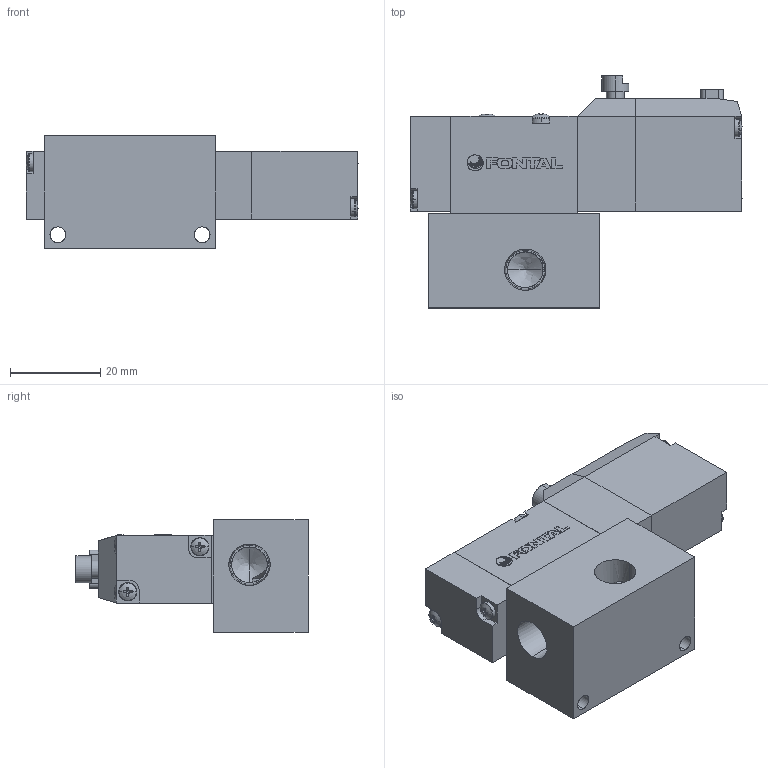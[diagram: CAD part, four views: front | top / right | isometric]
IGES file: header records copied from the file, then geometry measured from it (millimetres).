
Start section: SolidWorks IGES file using analytic representation for surfaces
Global section: file name: D:\Custom\3D繪製\PC\PCL5\PCL245#-01-#-L-#.IGS,1; native system: 5HSolidWorks 2014; preprocessor: SolidWorks 2014; author: Chieh_Lu; date: 150916.143312; units: millimetre
Bounding box: 73.64 x 51.5 x 25 mm (x, y, z)
Surface area: 17137.1 mm2 (no closed solid volume)
Topology: 0 solids, 0 shells, 506 faces, 4954 edges, 4928 vertices
Faces by surface type: bspline 303, revolution 203
